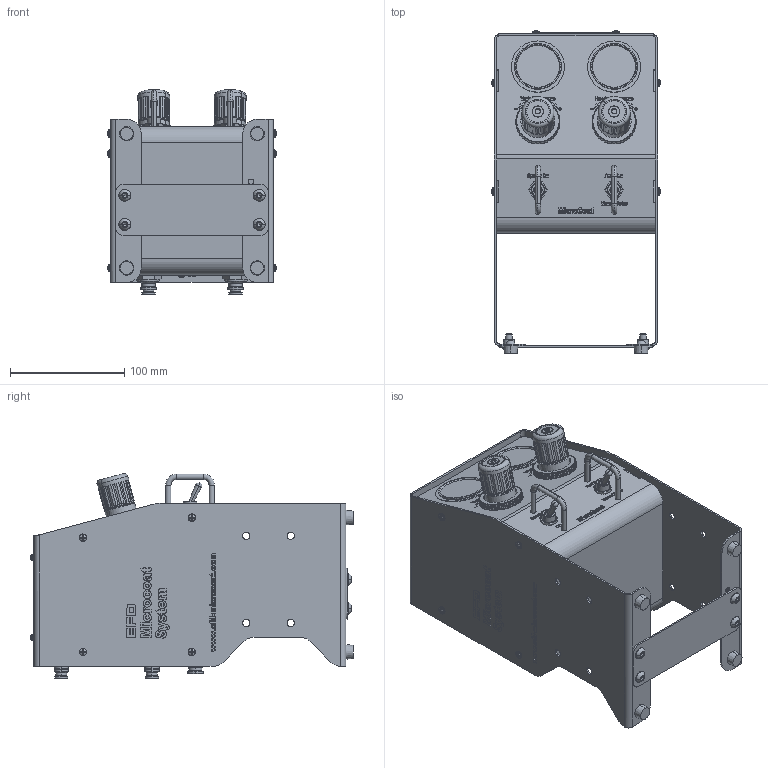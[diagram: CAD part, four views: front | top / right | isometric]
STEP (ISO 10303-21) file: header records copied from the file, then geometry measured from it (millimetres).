
FILE_DESCRIPTION (( 'STEP AP214' ), '1' );
FILE_NAME ('NORDSONEFD-7008008 MICROCOAT CONTROLLER.STEP', '2019-07-15T20:40:04', ( '' ), ( '' ), 'SwSTEP 2.0', 'SolidWorks 2019', '' );
FILE_SCHEMA (( 'AUTOMOTIVE_DESIGN' ));
Length unit declared in the file: inch
Products named in the file (1): NORDSONEFD-7008008 MICROCOAT CONTROLLER
Bounding box: 147.52 x 282.24 x 179.33 mm (x, y, z)
Volume: 3159802.6 mm3; surface area: 232929.7 mm2
Topology: 1 solids, 1 shells, 6182 faces, 15919 edges, 10189 vertices
Faces by surface type: plane 2744, bspline 1748, torus 790, cylinder 680, cone 198, sphere 22
Entity records: 269958 total; most frequent: CARTESIAN_POINT 124945, ORIENTED_EDGE 31778, DIRECTION 24023, EDGE_CURVE 15889, VERTEX_POINT 10175, LINE 8605, VECTOR 8605, AXIS2_PLACEMENT_3D 7709
